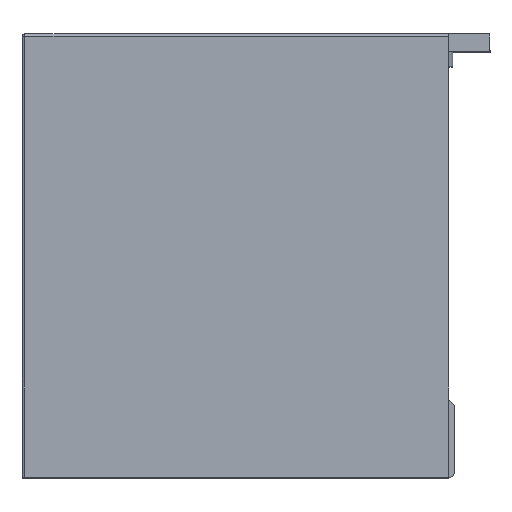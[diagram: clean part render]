
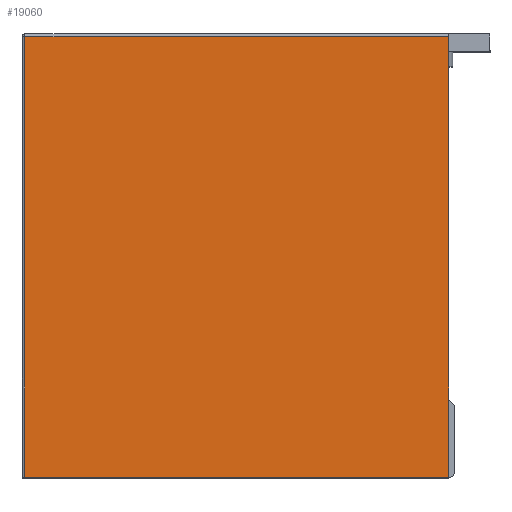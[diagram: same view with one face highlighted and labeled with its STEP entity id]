
A CAD part, top view. The second image highlights one B-rep face of the part: STEP entity #19060.
In plain terms, the highlighted planar face has unit normal (0, 0, 1) as drawn and (1, 0, 0) by its records, which use the part's own axes.
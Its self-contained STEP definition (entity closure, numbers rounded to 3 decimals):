
#796 = CARTESIAN_POINT ( 'NONE',  ( 0., 74.55, 0. ) ) ;
#2027 = EDGE_CURVE ( 'NONE', #18622, #14187, #12078, .T. ) ;
#2549 = DIRECTION ( 'NONE',  ( 0., -1., 0. ) ) ;
#2804 = CARTESIAN_POINT ( 'NONE',  ( 0., 74.55, 0. ) ) ;
#3367 = ORIENTED_EDGE ( 'NONE', *, *, #22023, .T. ) ;
#4006 = CARTESIAN_POINT ( 'NONE',  ( 0., 74.55, 0. ) ) ;
#4751 = CARTESIAN_POINT ( 'NONE',  ( 0., 36.775, 35.875 ) ) ;
#5773 = DIRECTION ( 'NONE',  ( 0., 0., -1. ) ) ;
#5796 = AXIS2_PLACEMENT_3D ( 'NONE', #4751, #14506, #20032 ) ;
#6328 = CARTESIAN_POINT ( 'NONE',  ( 0., 0., 71.75 ) ) ;
#6500 = FACE_OUTER_BOUND ( 'NONE', #10933, .T. ) ;
#6615 = VECTOR ( 'NONE', #5773, 1000. ) ;
#7533 = CARTESIAN_POINT ( 'NONE',  ( 0., 0., 71.75 ) ) ;
#8968 = CARTESIAN_POINT ( 'NONE',  ( 0., 0., 0. ) ) ;
#10208 = CARTESIAN_POINT ( 'NONE',  ( 0., 74.55, 71.75 ) ) ;
#10933 = EDGE_LOOP ( 'NONE', ( #14288, #3367, #12112, #22558 ) ) ;
#11135 = VECTOR ( 'NONE', #2549, 1000. ) ;
#12078 = LINE ( 'NONE', #10208, #11135 ) ;
#12112 = ORIENTED_EDGE ( 'NONE', *, *, #19482, .F. ) ;
#12520 = CARTESIAN_POINT ( 'NONE',  ( 0., 74.55, 71.75 ) ) ;
#14187 = VERTEX_POINT ( 'NONE', #6328 ) ;
#14215 = LINE ( 'NONE', #2804, #17008 ) ;
#14223 = VERTEX_POINT ( 'NONE', #796 ) ;
#14288 = ORIENTED_EDGE ( 'NONE', *, *, #2027, .T. ) ;
#14506 = DIRECTION ( 'NONE',  ( -1., 0., 0. ) ) ;
#15162 = LINE ( 'NONE', #4006, #24150 ) ;
#15908 = PLANE ( 'NONE',  #5796 ) ;
#16188 = VERTEX_POINT ( 'NONE', #8968 ) ;
#17008 = VECTOR ( 'NONE', #21982, 1000. ) ;
#18622 = VERTEX_POINT ( 'NONE', #12520 ) ;
#19060 = ADVANCED_FACE ( 'NONE', ( #6500 ), #15908, .F. ) ;
#19173 = DIRECTION ( 'NONE',  ( 0., 0., 1. ) ) ;
#19482 = EDGE_CURVE ( 'NONE', #14223, #16188, #14215, .T. ) ;
#20032 = DIRECTION ( 'NONE',  ( 0., 0., 1. ) ) ;
#20560 = LINE ( 'NONE', #7533, #6615 ) ;
#20900 = EDGE_CURVE ( 'NONE', #14223, #18622, #15162, .T. ) ;
#21982 = DIRECTION ( 'NONE',  ( 0., -1., 0. ) ) ;
#22023 = EDGE_CURVE ( 'NONE', #14187, #16188, #20560, .T. ) ;
#22558 = ORIENTED_EDGE ( 'NONE', *, *, #20900, .T. ) ;
#24150 = VECTOR ( 'NONE', #19173, 1000. ) ;
